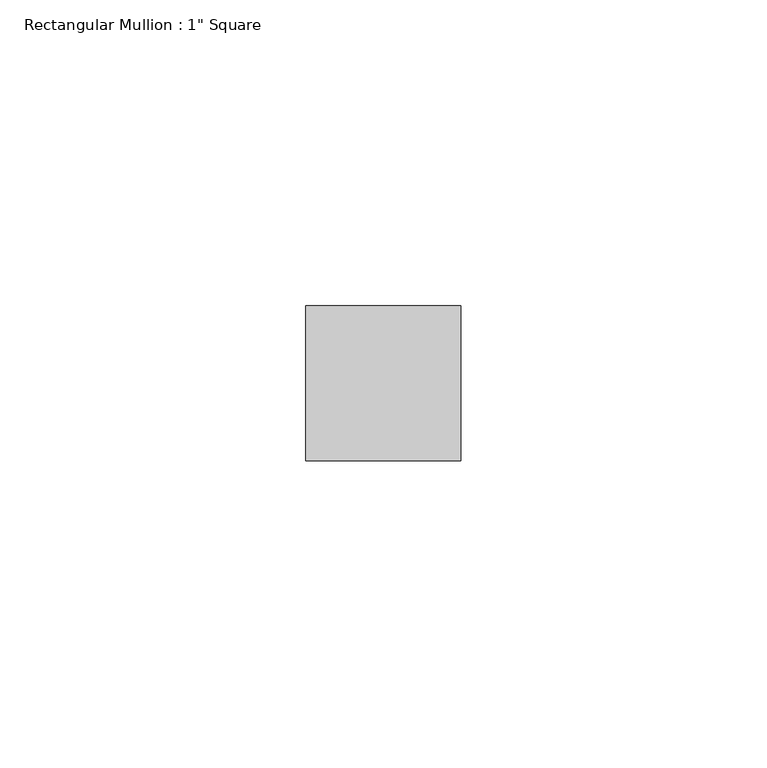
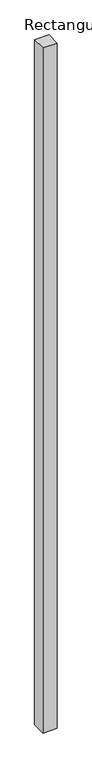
"""IFC4 building model written with IfcOpenShell, lengths in millimetres: member geometry."""

from ifc_helpers import new_model, si_unit, frame, origin, place, context, project, spatial, polyline, outline, extrude, source, transform, mapped, element, save


def member_5099ef51(model_context):
    return source(origin(), model_context, "Body", "SweptSolid", [
        extrude(outline(polyline([(12.7, 12.7), (12.7, -12.7), (-12.7, -12.7), (-12.7, 12.7), (12.7, 12.7)])), frame((0.0, 0.0, -1290.472574), z_axis=(0.0, 0.0, 1.0), x_axis=(1.0, 0.0, 0.0)), (0.0, 0.0, 1.0), 1290.472574),
    ])


if __name__ == "__main__":
    model = new_model("IFC4")
    model_context = context("Model", 3, world=origin())
    ifc_project = project(units=[si_unit("LENGTHUNIT", "METRE", prefix="MILLI")], contexts=[model_context])
    site = spatial("IfcSite", under=ifc_project)
    building = spatial("IfcBuilding", under=site)
    placement = place(None, origin())
    member_shape = member_5099ef51(model_context)
    element("IfcMember", 1, ObjectType="Rectangular Mullion : 1\" Square", at=placement, inside=building, context=model_context, shape_type="MappedRepresentation", body=[
        mapped(member_shape, transform((0.0, 0.0, 0.0), x_axis=(1.0, 0.0, 0.0), y_axis=(0.0, 1.0, 0.0), z_axis=(0.0, 0.0, 1.0))),
    ])
    save(model, "model.ifc")
